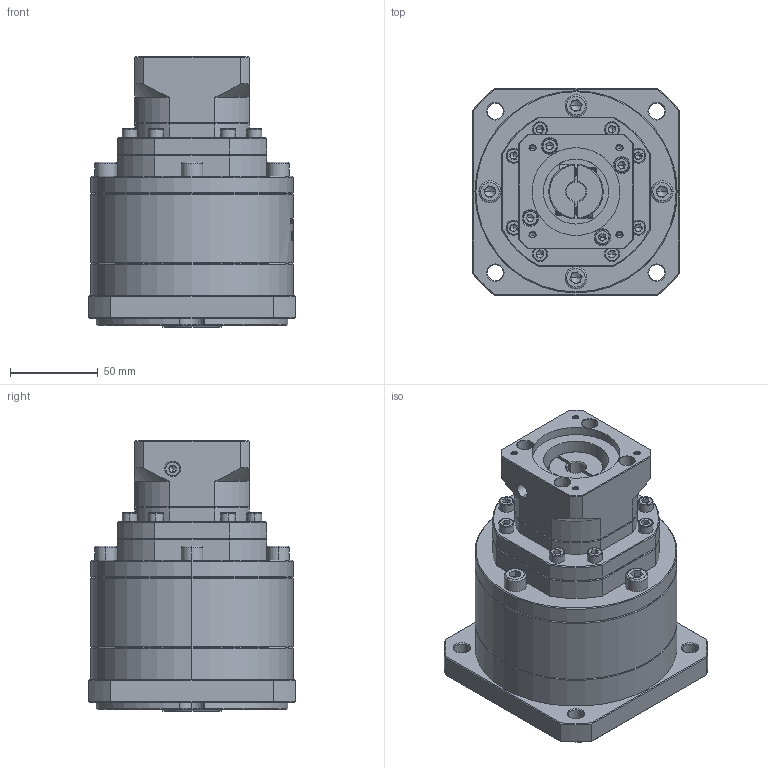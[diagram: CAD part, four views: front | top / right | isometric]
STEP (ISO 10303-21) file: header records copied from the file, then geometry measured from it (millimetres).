
FILE_DESCRIPTION (( 'STEP AP214' ), '1' );
FILE_NAME ('ZF120A-K25-L3-11-50-70-M4.step', '2023-03-07T15:56:37', ( '' ), ( 'Microsoft' ), 'SwSTEP 2.0', 'SolidWorks 2016', '' );
FILE_SCHEMA (( 'AUTOMOTIVE_DESIGN' ));
Length unit declared in the file: millimetre
Products named in the file (1): ZF120A-K25-L3-11-50-70-M4
Bounding box: 118 x 118 x 154 mm (x, y, z)
Volume: 1166508.4 mm3; surface area: 113692.3 mm2
Topology: 7 solids, 7 shells, 2015 faces, 5302 edges, 3390 vertices
Faces by surface type: plane 995, cylinder 378, bspline 328, cone 292, torus 22
Entity records: 101362 total; most frequent: CARTESIAN_POINT 32955, ORIENTED_EDGE 10500, DIRECTION 8350, EDGE_CURVE 5250, VERTEX_POINT 3390, LINE 2908, VECTOR 2908, AXIS2_PLACEMENT_3D 2721
